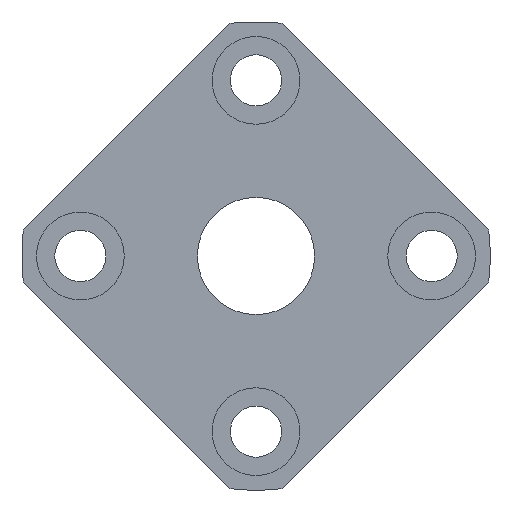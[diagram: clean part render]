
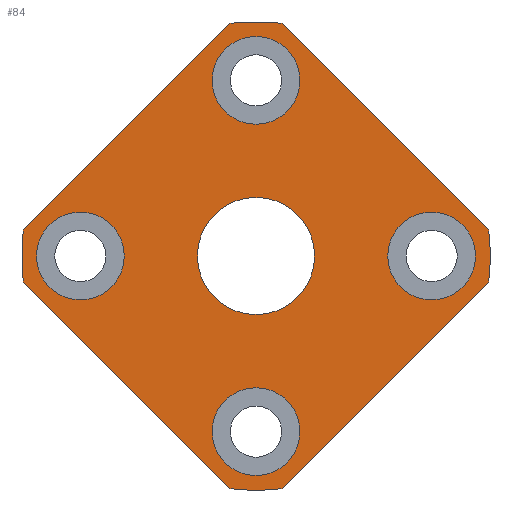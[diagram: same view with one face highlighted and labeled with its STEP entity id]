
A CAD part, left-side view. The second image highlights one B-rep face of the part: STEP entity #84.
In plain terms, the highlighted planar face has unit normal (-1, 0, 0).
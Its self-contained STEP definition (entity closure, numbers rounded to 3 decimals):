
#84 = ADVANCED_FACE( '', ( #125, #126, #127, #128, #129, #130 ), #131, .T. );
#125 = FACE_BOUND( '', #200, .T. );
#126 = FACE_BOUND( '', #201, .T. );
#127 = FACE_OUTER_BOUND( '', #202, .T. );
#128 = FACE_BOUND( '', #203, .T. );
#129 = FACE_BOUND( '', #204, .T. );
#130 = FACE_BOUND( '', #205, .T. );
#131 = PLANE( '', #206 );
#200 = EDGE_LOOP( '', ( #321 ) );
#201 = EDGE_LOOP( '', ( #322 ) );
#202 = EDGE_LOOP( '', ( #323, #324, #325, #326, #327, #328, #329, #330 ) );
#203 = EDGE_LOOP( '', ( #331 ) );
#204 = EDGE_LOOP( '', ( #332 ) );
#205 = EDGE_LOOP( '', ( #333 ) );
#206 = AXIS2_PLACEMENT_3D( '', #334, #335, #336 );
#321 = ORIENTED_EDGE( '', *, *, #444, .T. );
#322 = ORIENTED_EDGE( '', *, *, #434, .T. );
#323 = ORIENTED_EDGE( '', *, *, #445, .F. );
#324 = ORIENTED_EDGE( '', *, *, #430, .F. );
#325 = ORIENTED_EDGE( '', *, *, #419, .F. );
#326 = ORIENTED_EDGE( '', *, *, #427, .F. );
#327 = ORIENTED_EDGE( '', *, *, #415, .F. );
#328 = ORIENTED_EDGE( '', *, *, #429, .F. );
#329 = ORIENTED_EDGE( '', *, *, #423, .F. );
#330 = ORIENTED_EDGE( '', *, *, #443, .F. );
#331 = ORIENTED_EDGE( '', *, *, #446, .T. );
#332 = ORIENTED_EDGE( '', *, *, #447, .T. );
#333 = ORIENTED_EDGE( '', *, *, #448, .T. );
#334 = CARTESIAN_POINT( '', ( 0., 16., 0. ) );
#335 = DIRECTION( '', ( -1., 0., 0. ) );
#336 = DIRECTION( '', ( 0., 0., 1. ) );
#415 = EDGE_CURVE( '', #459, #461, #462, .T. );
#419 = EDGE_CURVE( '', #467, #469, #470, .T. );
#423 = EDGE_CURVE( '', #475, #477, #478, .T. );
#427 = EDGE_CURVE( '', #461, #467, #483, .T. );
#429 = EDGE_CURVE( '', #477, #459, #485, .T. );
#430 = EDGE_CURVE( '', #469, #486, #487, .T. );
#434 = EDGE_CURVE( '', #493, #493, #494, .F. );
#443 = EDGE_CURVE( '', #508, #475, #510, .T. );
#444 = EDGE_CURVE( '', #511, #511, #512, .T. );
#445 = EDGE_CURVE( '', #486, #508, #513, .T. );
#446 = EDGE_CURVE( '', #514, #514, #515, .T. );
#447 = EDGE_CURVE( '', #516, #516, #517, .T. );
#448 = EDGE_CURVE( '', #518, #518, #519, .T. );
#459 = VERTEX_POINT( '', #539 );
#461 = VERTEX_POINT( '', #542 );
#462 = LINE( '', #543, #544 );
#467 = VERTEX_POINT( '', #551 );
#469 = VERTEX_POINT( '', #554 );
#470 = LINE( '', #555, #556 );
#475 = VERTEX_POINT( '', #563 );
#477 = VERTEX_POINT( '', #566 );
#478 = LINE( '', #567, #568 );
#483 = CIRCLE( '', #575, 16. );
#485 = CIRCLE( '', #577, 16. );
#486 = VERTEX_POINT( '', #578 );
#487 = CIRCLE( '', #579, 16. );
#493 = VERTEX_POINT( '', #586 );
#494 = CIRCLE( '', #587, 3. );
#508 = VERTEX_POINT( '', #602 );
#510 = CIRCLE( '', #605, 16. );
#511 = VERTEX_POINT( '', #606 );
#512 = CIRCLE( '', #607, 4. );
#513 = LINE( '', #608, #609 );
#514 = VERTEX_POINT( '', #610 );
#515 = CIRCLE( '', #611, 3. );
#516 = VERTEX_POINT( '', #612 );
#517 = CIRCLE( '', #613, 3. );
#518 = VERTEX_POINT( '', #614 );
#519 = CIRCLE( '', #615, 3. );
#539 = CARTESIAN_POINT( '', ( 0., -15.901, -1.777 ) );
#542 = CARTESIAN_POINT( '', ( 0., -1.777, -15.901 ) );
#543 = CARTESIAN_POINT( '', ( 0., -17.678, 0. ) );
#544 = VECTOR( '', #635, 1000. );
#551 = CARTESIAN_POINT( '', ( 0., 1.777, -15.901 ) );
#554 = CARTESIAN_POINT( '', ( 0., 15.901, -1.777 ) );
#555 = CARTESIAN_POINT( '', ( 0., 0., -17.678 ) );
#556 = VECTOR( '', #639, 1000. );
#563 = CARTESIAN_POINT( '', ( 0., -1.777, 15.901 ) );
#566 = CARTESIAN_POINT( '', ( 0., -15.901, 1.777 ) );
#567 = CARTESIAN_POINT( '', ( 0., 0., 17.678 ) );
#568 = VECTOR( '', #643, 1000. );
#575 = AXIS2_PLACEMENT_3D( '', #649, #650, #651 );
#577 = AXIS2_PLACEMENT_3D( '', #655, #656, #657 );
#578 = CARTESIAN_POINT( '', ( 0., 15.901, 1.777 ) );
#579 = AXIS2_PLACEMENT_3D( '', #658, #659, #660 );
#586 = CARTESIAN_POINT( '', ( 0., 12., 3. ) );
#587 = AXIS2_PLACEMENT_3D( '', #668, #669, #670 );
#602 = CARTESIAN_POINT( '', ( 0., 1.777, 15.901 ) );
#605 = AXIS2_PLACEMENT_3D( '', #691, #692, #693 );
#606 = CARTESIAN_POINT( '', ( 0., 0., -4. ) );
#607 = AXIS2_PLACEMENT_3D( '', #694, #695, #696 );
#608 = CARTESIAN_POINT( '', ( 0., 17.678, 0. ) );
#609 = VECTOR( '', #697, 1000. );
#610 = CARTESIAN_POINT( '', ( 0., 0., 9. ) );
#611 = AXIS2_PLACEMENT_3D( '', #698, #699, #700 );
#612 = CARTESIAN_POINT( '', ( 0., 0., -15. ) );
#613 = AXIS2_PLACEMENT_3D( '', #701, #702, #703 );
#614 = CARTESIAN_POINT( '', ( 0., -12., -3. ) );
#615 = AXIS2_PLACEMENT_3D( '', #704, #705, #706 );
#635 = DIRECTION( '', ( 0., 0.707, -0.707 ) );
#639 = DIRECTION( '', ( 0., 0.707, 0.707 ) );
#643 = DIRECTION( '', ( 0., -0.707, -0.707 ) );
#649 = CARTESIAN_POINT( '', ( 0., 0., 0. ) );
#650 = DIRECTION( '', ( 1., 0., 0. ) );
#651 = DIRECTION( '', ( 0., 0., -1. ) );
#655 = CARTESIAN_POINT( '', ( 0., 0., 0. ) );
#656 = DIRECTION( '', ( 1., 0., 0. ) );
#657 = DIRECTION( '', ( 0., 0., -1. ) );
#658 = CARTESIAN_POINT( '', ( 0., 0., 0. ) );
#659 = DIRECTION( '', ( 1., 0., 0. ) );
#660 = DIRECTION( '', ( 0., 0., -1. ) );
#668 = CARTESIAN_POINT( '', ( 0., 12., 0. ) );
#669 = DIRECTION( '', ( -1., 0., 0. ) );
#670 = DIRECTION( '', ( 0., 0., 1. ) );
#691 = CARTESIAN_POINT( '', ( 0., 0., 0. ) );
#692 = DIRECTION( '', ( 1., 0., 0. ) );
#693 = DIRECTION( '', ( 0., 0., -1. ) );
#694 = CARTESIAN_POINT( '', ( 0., 0., 0. ) );
#695 = DIRECTION( '', ( 1., 0., 0. ) );
#696 = DIRECTION( '', ( 0., 0., -1. ) );
#697 = DIRECTION( '', ( 0., -0.707, 0.707 ) );
#698 = CARTESIAN_POINT( '', ( 0., 0., 12. ) );
#699 = DIRECTION( '', ( 1., 0., 0. ) );
#700 = DIRECTION( '', ( 0., 0., -1. ) );
#701 = CARTESIAN_POINT( '', ( 0., 0., -12. ) );
#702 = DIRECTION( '', ( 1., 0., 0. ) );
#703 = DIRECTION( '', ( 0., 0., -1. ) );
#704 = CARTESIAN_POINT( '', ( 0., -12., 0. ) );
#705 = DIRECTION( '', ( 1., 0., 0. ) );
#706 = DIRECTION( '', ( 0., 0., -1. ) );
